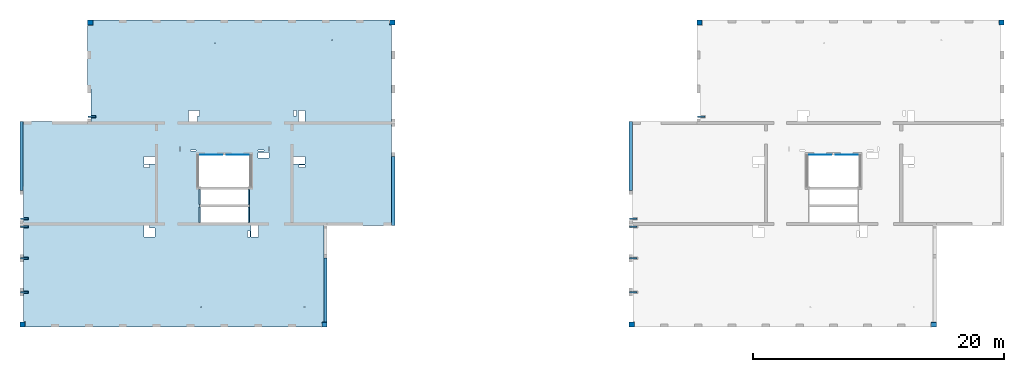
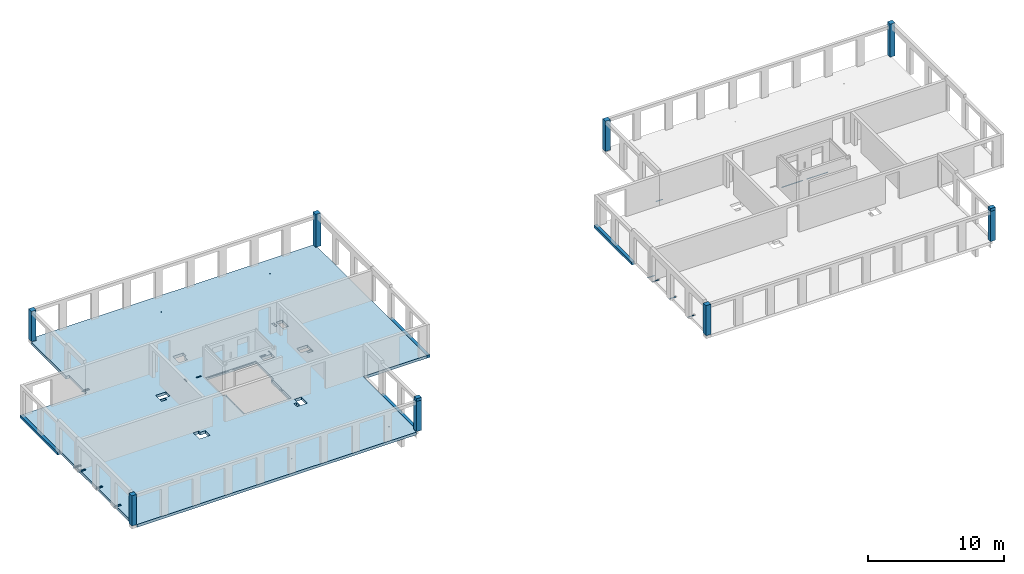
# One storey, part 1 of 9: 14 beams, 10 columns, 5 slabs, 33 openings.
"""IFC2X3 building model written with IfcOpenShell, lengths in millimetres."""

import ifcopenshell
import ifcopenshell.guid

model = None  # the IFC model being written
_history = None  # IfcOwnerHistory: only IFC2X3 demands one
_inside = {}  # id of a spatial element -> (the spatial element, [elements in it])
_under = {}  # id of a project, library or spatial element -> (it, [spatial elements below it])
_declared = {}  # id of a project -> (the project, [libraries it declares])
_typed = {}  # id of a type object -> (the type object, [elements of that type])
_made_of = {}  # id of a material, layer set ... -> (it, [elements and type objects made of it])


def new_model(schema):
    """Start an empty IFC model of exactly this schema.

    Asked for "IFC4X3", IfcOpenShell would pick the latest addendum, in which some entities
    have other attributes; the version numbers below select the first issue.
    IFC2X3 requires an IfcOwnerHistory on every rooted entity: one is made here for all.
    """
    global model, _history
    if schema == "IFC4X3":
        model = ifcopenshell.file(schema_version=(4, 3, 0, 0))
    else:
        model = ifcopenshell.file(schema=schema)
    _inside.clear()
    _under.clear()
    _declared.clear()
    _typed.clear()
    _made_of.clear()
    _history = None
    if model.schema == "IFC2X3":
        org = make("IfcOrganization", Name="unknown")
        user = make(
            "IfcPersonAndOrganization",
            ThePerson=make("IfcPerson", FamilyName="unknown"),
            TheOrganization=org,
        )
        app = make(
            "IfcApplication",
            ApplicationDeveloper=org,
            Version="unknown",
            ApplicationFullName="unknown",
            ApplicationIdentifier="unknown",
        )
        _history = make(
            "IfcOwnerHistory",
            OwningUser=user,
            OwningApplication=app,
            ChangeAction="ADDED",
            CreationDate=0,
        )
    return model


def make(cls, **values):
    """One entity of the class cls with the attributes given. An attribute that is None is left unset."""
    return model.create_entity(
        cls, **{name: value for name, value in values.items() if value is not None}
    )


def entity(cls, *values):
    """Any entity or typed value of the class cls, its attributes in the order of the schema. None: left unset."""
    e = model.create_entity(cls)
    for i, value in enumerate(values):
        if value is not None:
            e[i] = value
    return e


def rooted(cls, **values):
    """An entity with a GlobalId (a new one), such as an element, a storey or a relation."""
    return make(cls, GlobalId=ifcopenshell.guid.new(), OwnerHistory=_history, **values)


def si_unit(unit_type, name, prefix=None):
    """IfcSIUnit, for example si_unit("LENGTHUNIT", "METRE", prefix="MILLI")."""
    return make("IfcSIUnit", UnitType=unit_type, Prefix=prefix, Name=name)


def converted_unit(unit_type, name, factor, base, dimensions=None, offset=None):
    """IfcConversionBasedUnit, such as the inch: factor (a typed value) times the base unit."""
    return make(
        "IfcConversionBasedUnit"
        if offset is None
        else "IfcConversionBasedUnitWithOffset",
        ConversionOffset=offset,
        Dimensions=None
        if dimensions is None
        else entity("IfcDimensionalExponents", *dimensions),
        UnitType=unit_type,
        Name=name,
        ConversionFactor=make(
            "IfcMeasureWithUnit", ValueComponent=factor, UnitComponent=base
        ),
    )


def derived_unit(unit_type, elements):
    """IfcDerivedUnit: a product of units, each with its exponent."""
    return make(
        "IfcDerivedUnit",
        Elements=[
            make("IfcDerivedUnitElement", Unit=unit, Exponent=power)
            for unit, power in elements
        ],
        UnitType=unit_type,
    )


def assignment(units):
    """IfcUnitAssignment: the units of a project."""
    return None if units is None else make("IfcUnitAssignment", Units=units)


def point(xyz):
    """IfcCartesianPoint."""
    return None if xyz is None else make("IfcCartesianPoint", Coordinates=xyz)


def direction(xyz):
    """IfcDirection."""
    return None if xyz is None else make("IfcDirection", DirectionRatios=xyz)


def frame(location, z_axis=None, x_axis=None):
    """IfcAxis2Placement3D, a coordinate frame: its origin and axes. An axis left out is left unset."""
    return make(
        "IfcAxis2Placement3D",
        Location=point(location),
        Axis=direction(z_axis),
        RefDirection=direction(x_axis),
    )


def frame_2d(location, x_axis=None):
    """IfcAxis2Placement2D, a coordinate frame in the plane: its origin and x axis."""
    return make(
        "IfcAxis2Placement2D", Location=point(location), RefDirection=direction(x_axis)
    )


def origin():
    """The frame at (0, 0, 0) with its axes left unset."""
    return frame((0.0, 0.0, 0.0))


def origin_2d_with_axis():
    """The frame at (0, 0) in the plane with the x axis (1, 0) written out."""
    return frame_2d((0.0, 0.0), x_axis=(1.0, 0.0))


def place(relative_to, where):
    """IfcLocalPlacement: puts the frame where relative to a parent placement (None: the world)."""
    return make(
        "IfcLocalPlacement", PlacementRelTo=relative_to, RelativePlacement=where
    )


def context(
    kind, dimensions, precision=None, world=None, true_north=None, identifier=None
):
    """IfcGeometricRepresentationContext, for example the 3D "Model" context."""
    return make(
        "IfcGeometricRepresentationContext",
        ContextIdentifier=identifier,
        ContextType=kind,
        CoordinateSpaceDimension=dimensions,
        Precision=precision,
        WorldCoordinateSystem=world,
        TrueNorth=true_north,
    )


def subcontext(parent, identifier, kind, view, scale=None):
    """IfcGeometricRepresentationSubContext, for example "Body" below "Model"."""
    return make(
        "IfcGeometricRepresentationSubContext",
        ContextIdentifier=identifier,
        ContextType=kind,
        ParentContext=parent,
        TargetScale=scale,
        TargetView=view,
    )


def project(units=None, contexts=None):
    """IfcProject with its units and contexts."""
    return rooted(
        "IfcProject",
        Name="project",
        RepresentationContexts=contexts,
        UnitsInContext=assignment(units),
    )


def spatial(cls, under=None, at=None, **own):
    """A site, building, storey or space (cls), placed at a placement, below another one or the project."""
    s = rooted(cls, ObjectPlacement=at, **own)
    if under is not None:
        _under.setdefault(under.id(), (under, []))[1].append(s)
    return s


def polyline(points):
    """IfcPolyline through the points."""
    return make("IfcPolyline", Points=[point(p) for p in points])


def profile(cls, at=None, kind="AREA", **sizes):
    """A parametric profile (cls). Its sizes go by their IFC names, for example OverallWidth=200.0."""
    return make(cls, ProfileType=kind, Position=at, **sizes)


def rectangle(**sizes):
    """IfcRectangleProfileDef."""
    return profile("IfcRectangleProfileDef", **sizes)


def circle(**sizes):
    """IfcCircleProfileDef."""
    return profile("IfcCircleProfileDef", **sizes)


def outline(outer, holes=None, kind="AREA"):
    """IfcArbitraryClosedProfileDef: a profile drawn as a closed curve; with holes, ...WithVoids."""
    if holes is None:
        return make("IfcArbitraryClosedProfileDef", ProfileType=kind, OuterCurve=outer)
    return make(
        "IfcArbitraryProfileDefWithVoids",
        ProfileType=kind,
        OuterCurve=outer,
        InnerCurves=holes,
    )


def extrude(swept, where, along, depth):
    """IfcExtrudedAreaSolid: the profile swept, set in the frame where, extruded along a direction by depth."""
    return make(
        "IfcExtrudedAreaSolid",
        SweptArea=swept,
        Position=where,
        ExtrudedDirection=direction(along),
        Depth=depth,
    )


def shape(context_of_items, identifier, shape_type, items):
    """IfcShapeRepresentation: the items that make up one representation, for example the "Body"."""
    return make(
        "IfcShapeRepresentation",
        ContextOfItems=context_of_items,
        RepresentationIdentifier=identifier,
        RepresentationType=shape_type,
        Items=items,
    )


def source(mapping_origin, context_of_items, identifier, shape_type, items):
    """IfcRepresentationMap: a shape defined once, which mapped items show again and again."""
    return make(
        "IfcRepresentationMap",
        MappingOrigin=mapping_origin,
        MappedRepresentation=shape(context_of_items, identifier, shape_type, items),
    )


def transform(
    local_origin,
    x_axis=None,
    y_axis=None,
    z_axis=None,
    scale=None,
    scale2=None,
    scale3=None,
    uniform=True,
):
    """IfcCartesianTransformationOperator3D, or its non-uniform kind. x_axis, y_axis, z_axis: its Axis1, 2, 3."""
    if uniform:
        return make(
            "IfcCartesianTransformationOperator3D",
            Axis1=direction(x_axis),
            Axis2=direction(y_axis),
            LocalOrigin=point(local_origin),
            Scale=scale,
            Axis3=direction(z_axis),
        )
    return make(
        "IfcCartesianTransformationOperator3DnonUniform",
        Axis1=direction(x_axis),
        Axis2=direction(y_axis),
        LocalOrigin=point(local_origin),
        Scale=scale,
        Axis3=direction(z_axis),
        Scale2=scale2,
        Scale3=scale3,
    )


def mapped(mapping_source, mapping_target):
    """IfcMappedItem: shows the shape of a source again, moved by a transform."""
    return make(
        "IfcMappedItem", MappingSource=mapping_source, MappingTarget=mapping_target
    )


def material(Name=None, Category=None):
    """IfcMaterial."""
    return make("IfcMaterial", Name=Name, Category=Category)


def layer(
    of_material, thickness, ventilated=None, Name=None, Category=None, Priority=None
):
    """IfcMaterialLayer: one layer of a wall or slab, of a material (None: an air gap)."""
    return make(
        "IfcMaterialLayer",
        Material=of_material,
        LayerThickness=thickness,
        IsVentilated=ventilated,
        Name=Name,
        Category=Category,
        Priority=Priority,
    )


def layer_set(layers, Name=None):
    """IfcMaterialLayerSet."""
    return make("IfcMaterialLayerSet", MaterialLayers=layers, LayerSetName=Name)


def layer_usage(for_layer_set, set_direction, sense, offset, extent=None):
    """IfcMaterialLayerSetUsage: how a layer set lies in its element."""
    return make(
        "IfcMaterialLayerSetUsage",
        ForLayerSet=for_layer_set,
        LayerSetDirection=set_direction,
        DirectionSense=sense,
        OffsetFromReferenceLine=offset,
        ReferenceExtent=extent,
    )


def made_of(thing, what):
    """Note that an element or type object is made of a material, layer set ...; save() writes the relation."""
    if what is not None:
        _made_of.setdefault(what.id(), (what, []))[1].append(thing)
    return thing


def type_object(cls, material=None, **own):
    """A type object (cls), such as IfcWallType, which elements share."""
    return made_of(rooted(cls, **own), material)


def type_shapes(of_type, sources):
    """Give a type object the sources (RepresentationMaps) that its elements show as mapped items."""
    of_type.RepresentationMaps = sources


def element(
    cls,
    number,
    at=None,
    inside=None,
    cuts=None,
    type_object=None,
    material=None,
    context=None,
    identifier="Body",
    shape_type=None,
    held_by="IfcProductDefinitionShape",
    body=None,
    shapes=None,
    **own,
):
    """One element of the class cls, such as IfcWall. Its Tag is "e" and its number.

    at: its placement. inside: the storey or other place that contains it. cuts: it is an
    opening in that element (IfcRelVoidsElement). A single representation is given by context,
    identifier, shape_type and body (its items); several are given by shapes. held_by: the class
    of the entity that holds the representations. save() writes the other relations.
    """
    e = rooted(cls, Tag="e%d" % number, ObjectPlacement=at, **own)
    if body is not None:
        shapes = [shape(context, identifier, shape_type, body)]
    if shapes is not None:
        e.Representation = make(held_by, Representations=shapes)
    if inside is not None:
        _inside.setdefault(inside.id(), (inside, []))[1].append(e)
    if cuts is not None:
        rooted(
            "IfcRelVoidsElement", RelatingBuildingElement=cuts, RelatedOpeningElement=e
        )
    if type_object is not None:
        _typed.setdefault(type_object.id(), (type_object, []))[1].append(e)
    return made_of(e, material)


def aggregate(whole, parts):
    """IfcRelAggregates: a whole, such as a stair, and the parts it consists of."""
    return rooted("IfcRelAggregates", RelatingObject=whole, RelatedObjects=parts)


def save(model, path):
    """Write the relations noted so far, then the file.

    IfcRelAggregates (storeys below a building ...), IfcRelContainedInSpatialStructure (elements
    in a storey), IfcRelDefinesByType, IfcRelAssociatesMaterial and IfcRelDeclares: one each for
    every whole, place, type object, material and project.
    """
    for whole, parts in _under.values():
        aggregate(whole, parts)
    for where, things in _inside.values():
        rooted(
            "IfcRelContainedInSpatialStructure",
            RelatedElements=things,
            RelatingStructure=where,
        )
    for kind, things in _typed.values():
        rooted("IfcRelDefinesByType", RelatedObjects=things, RelatingType=kind)
    for what, things in _made_of.values():
        rooted("IfcRelAssociatesMaterial", RelatedObjects=things, RelatingMaterial=what)
    for by, libraries in _declared.values():
        rooted("IfcRelDeclares", RelatingContext=by, RelatedDefinitions=libraries)
    model.write(path)


model = new_model("IFC2X3")

# Units and contexts
model_context = context("Model", 3, precision=0.01, world=origin(), true_north=direction((6.12303176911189e-17, 1.0)))
body_context = subcontext(model_context, "Body", "Model", "MODEL_VIEW")
ifc_project = project(units=[si_unit("LENGTHUNIT", "METRE", prefix="MILLI"), si_unit("AREAUNIT", "SQUARE_METRE"), si_unit("VOLUMEUNIT", "CUBIC_METRE"), converted_unit("PLANEANGLEUNIT", "DEGREE", entity("IfcRatioMeasure", 0.0174532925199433), si_unit("PLANEANGLEUNIT", "RADIAN"), dimensions=[0, 0, 0, 0, 0, 0, 0]), si_unit("MASSUNIT", "GRAM", prefix="KILO"), derived_unit("MASSDENSITYUNIT", [(si_unit("MASSUNIT", "GRAM", prefix="KILO"), 1), (si_unit("LENGTHUNIT", "METRE"), -3)]), si_unit("TIMEUNIT", "SECOND"), si_unit("FREQUENCYUNIT", "HERTZ"), si_unit("THERMODYNAMICTEMPERATUREUNIT", "DEGREE_CELSIUS"), derived_unit("THERMALTRANSMITTANCEUNIT", [(si_unit("MASSUNIT", "GRAM", prefix="KILO"), 1), (si_unit("THERMODYNAMICTEMPERATUREUNIT", "KELVIN"), -1), (si_unit("TIMEUNIT", "SECOND"), -3)]), derived_unit("VOLUMETRICFLOWRATEUNIT", [(si_unit("LENGTHUNIT", "METRE"), 3), (si_unit("TIMEUNIT", "SECOND"), -1)]), si_unit("ELECTRICCURRENTUNIT", "AMPERE"), si_unit("ELECTRICVOLTAGEUNIT", "VOLT"), si_unit("POWERUNIT", "WATT"), si_unit("FORCEUNIT", "NEWTON", prefix="KILO"), si_unit("ILLUMINANCEUNIT", "LUX"), si_unit("LUMINOUSFLUXUNIT", "LUMEN"), si_unit("LUMINOUSINTENSITYUNIT", "CANDELA"), derived_unit("USERDEFINED", [(si_unit("MASSUNIT", "GRAM", prefix="KILO"), -1), (si_unit("LENGTHUNIT", "METRE"), -2), (si_unit("TIMEUNIT", "SECOND"), 3), (si_unit("LUMINOUSFLUXUNIT", "LUMEN"), 1)]), derived_unit("LINEARVELOCITYUNIT", [(si_unit("LENGTHUNIT", "METRE"), 1), (si_unit("TIMEUNIT", "SECOND"), -1)]), si_unit("PRESSUREUNIT", "PASCAL"), derived_unit("USERDEFINED", [(si_unit("LENGTHUNIT", "METRE"), -2), (si_unit("MASSUNIT", "GRAM", prefix="KILO"), 1), (si_unit("TIMEUNIT", "SECOND"), -2)])], contexts=[model_context])

# Site, building, storey
site_placement = place(None, origin())
site = spatial("IfcSite", under=ifc_project, at=site_placement, Name="Default", CompositionType="ELEMENT")
building_placement = place(site_placement, origin())
building = spatial("IfcBuilding", under=site, at=building_placement, Name="niet gebruiken", CompositionType="ELEMENT")
storey_placement = place(building_placement, frame((0.0, 0.0, 33390.0)))
storey = spatial("IfcBuildingStorey", under=building, at=storey_placement, Name="11 elfde verdieping", CompositionType="ELEMENT", Elevation=33390.0)

# Columns
ifc_material_1 = material(Name="NLRS_f2_beton prefab")
column_type_1 = type_object("IfcColumnType", Name="410x410", PredefinedType="COLUMN", material=ifc_material_1)
shared_shape_1 = source(origin(), body_context, "Body", "SweptSolid", [
    extrude(rectangle(XDim=410.0, YDim=410.0, at=origin_2d_with_axis()), frame((0.0, 0.0, 33320.0), z_axis=(0.0, 0.0, 1.0), x_axis=(0.0, -1.0, 0.0)), (0.0, 0.0, 1.0), 2699.99999999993),
])
type_shapes(column_type_1, [shared_shape_1])
for number, where, name in (
    (1, (99795.0, 28961.0, -33390.0), "NLRS_28. kolom vierkant_gen:410x410"),
    (2, (81105.0, 53051.0, -33390.0), "NLRS_28. kolom vierkant_gen:410x410"),
    (3, (51195.0, 28961.0, -33390.0), "NLRS_28. kolom vierkant_gen:410x410"),
    (4, (32505.0, 53051.0, -33390.0), "NLRS_28. kolom vierkant_gen:410x410"),
):
    element("IfcColumn", number, at=place(storey_placement, frame(where)), inside=storey, type_object=column_type_1, material=ifc_material_1, Name=name, ObjectType="410x410", context=body_context, shape_type="MappedRepresentation", body=[
        mapped(shared_shape_1, transform((0.0, 0.0, 0.0), scale=1.0)),
    ])
column_type_2 = type_object("IfcColumnType", Name="410x410", PredefinedType="COLUMN", material=ifc_material_1)
shared_shape_2 = source(origin(), body_context, "Body", "SweptSolid", [
    extrude(rectangle(XDim=410.0, YDim=410.0, at=origin_2d_with_axis()), frame((0.0, 0.0, 33320.0), z_axis=(0.0, 0.0, 1.0), x_axis=(0.0, -1.0, 0.0)), (0.0, 0.0, 1.0), 2700.0),
])
type_shapes(column_type_2, [shared_shape_2])
for number, where, z_axis, x_axis, name in (
    (5, (75705.0, 28961.0, -33390.0), (0.0, 0.0, 1.0), (0.0, 1.0, 0.0), "NLRS_28. kolom vierkant_gen1:410x410"),
    (6, (27105.0, 28961.0, -33390.0), (0.0, 0.0, 1.0), (0.0, 1.0, 0.0), "NLRS_28. kolom vierkant_gen1:410x410"),
):
    element("IfcColumn", number, at=place(storey_placement, frame(where, z_axis=z_axis, x_axis=x_axis)), inside=storey, type_object=column_type_2, material=ifc_material_1, Name=name, ObjectType="410x410", context=body_context, shape_type="MappedRepresentation", body=[
        mapped(shared_shape_2, transform((0.0, 0.0, 0.0), scale=1.0)),
    ])
column_type_3 = type_object("IfcColumnType", Name="410x410", PredefinedType="COLUMN", material=ifc_material_1)
shared_shape_3 = source(origin(), body_context, "Body", "SweptSolid", [
    extrude(rectangle(XDim=410.000000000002, YDim=409.999999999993, at=origin_2d_with_axis()), frame((105195.0, 53051.0, 33320.0), z_axis=(0.0, 0.0, 1.0), x_axis=(0.0, -1.0, 0.0)), (0.0, 0.0, 1.0), 2950.0),
])
type_shapes(column_type_3, [shared_shape_3])
column_1_placement = place(storey_placement, frame((0.0, 0.0, -33390.0)))
element("IfcColumn", 7, at=column_1_placement, inside=storey, type_object=column_type_3, material=ifc_material_1, Name="NLRS_28. kolom vierkant_gen:410x410", ObjectType="410x410", context=body_context, shape_type="MappedRepresentation", body=[
    mapped(shared_shape_3, transform((0.0, 0.0, 0.0), scale=1.0)),
])
column_type_4 = type_object("IfcColumnType", Name="410x410", PredefinedType="COLUMN", material=ifc_material_1)
shared_shape_4 = source(origin(), body_context, "Body", "SweptSolid", [
    extrude(rectangle(XDim=410.000000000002, YDim=410.000000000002, at=frame_2d((8.66862137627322e-12, 0.0), x_axis=(1.0, 0.0))), frame((56595.0, 53051.0, 33320.0), z_axis=(0.0, 0.0, 1.0), x_axis=(0.0, -1.0, 0.0)), (0.0, 0.0, 1.0), 2950.0),
])
type_shapes(column_type_4, [shared_shape_4])
column_2_placement = place(storey_placement, frame((0.0, 0.0, -33390.0)))
element("IfcColumn", 8, at=column_2_placement, inside=storey, type_object=column_type_4, material=ifc_material_1, Name="NLRS_28. kolom vierkant_gen:410x410", ObjectType="410x410", context=body_context, shape_type="MappedRepresentation", body=[
    mapped(shared_shape_4, transform((0.0, 0.0, 0.0), scale=1.0)),
])
column_type_5 = type_object("IfcColumnType", Name="410x360", PredefinedType="COLUMN", material=ifc_material_1)
shared_shape_5 = source(origin(), body_context, "Body", "SweptSolid", [
    extrude(rectangle(XDim=360.0, YDim=410.000000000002, at=origin_2d_with_axis()), frame((51195.0, 28936.0, 36020.0), z_axis=(0.0, 0.0, 1.0), x_axis=(0.0, -1.0, 0.0)), (0.0, 0.0, 1.0), 249.999999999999),
])
type_shapes(column_type_5, [shared_shape_5])
column_3_placement = place(storey_placement, frame((0.0, 0.0, -33390.0)))
element("IfcColumn", 9, at=column_3_placement, inside=storey, type_object=column_type_5, material=ifc_material_1, Name="NLRS_28. kolom vierkant_gen:410x360", ObjectType="410x360", context=body_context, shape_type="MappedRepresentation", body=[
    mapped(shared_shape_5, transform((0.0, 0.0, 0.0), scale=1.0)),
])
column_type_6 = type_object("IfcColumnType", Name="410x360", PredefinedType="COLUMN", material=ifc_material_1)
shared_shape_6 = source(origin(), body_context, "Body", "SweptSolid", [
    extrude(rectangle(XDim=360.0, YDim=409.999999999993, at=origin_2d_with_axis()), frame((99795.0, 28936.0, 36020.0), z_axis=(0.0, 0.0, 1.0), x_axis=(0.0, -1.0, 0.0)), (0.0, 0.0, 1.0), 249.999999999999),
])
type_shapes(column_type_6, [shared_shape_6])
column_4_placement = place(storey_placement, frame((0.0, 0.0, -33390.0)))
element("IfcColumn", 10, at=column_4_placement, inside=storey, type_object=column_type_6, material=ifc_material_1, Name="NLRS_28. kolom vierkant_gen:410x360", ObjectType="410x360", context=body_context, shape_type="MappedRepresentation", body=[
    mapped(shared_shape_6, transform((0.0, 0.0, 0.0), scale=1.0)),
])

# Beams
ifc_material_2 = material(Name="NLRS_h2_staal")
beam_type_1 = type_object("IfcBeamType", Name="ligger stripstaal RECT_120x10", PredefinedType="BEAM", material=ifc_material_2)
shared_shape_7 = source(origin(), body_context, "Body", "SweptSolid", [
    extrude(rectangle(XDim=599.999999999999, YDim=120.0, at=origin_2d_with_axis()), frame((0.0, 0.0, -5.0), z_axis=(0.0, 0.0, 1.0), x_axis=(-1.0, 0.0, 0.0)), (0.0, 0.0, 1.0), 9.99999999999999),
    extrude(rectangle(XDim=599.999999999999, YDim=120.0, at=origin_2d_with_axis()), frame((0.0, 0.0, -5.0), z_axis=(0.0, 0.0, 1.0), x_axis=(-1.0, 0.0, 0.0)), (0.0, 0.0, 1.0), 9.99999999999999),
])
type_shapes(beam_type_1, [shared_shape_7])
for number, where, name in (
    (11, (27235.0, 31556.0, -115.0), "NLRS_28.11_SF_WPB_stalen ligger stripstaal_gen:ligger stripstaal RECT_120x10"),
    (12, (27235.0, 34256.0, -115.0), "NLRS_28.11_SF_WPB_stalen ligger stripstaal_gen:ligger stripstaal RECT_120x10"),
    (13, (27235.0, 36766.0, -115.0), "NLRS_28.11_SF_WPB_stalen ligger stripstaal_gen:ligger stripstaal RECT_120x10"),
    (14, (75835.0, 31556.0, -115.0), "NLRS_28.11_SF_WPB_stalen ligger stripstaal_gen:ligger stripstaal RECT_120x10"),
    (15, (75835.0, 34256.0, -115.0), "NLRS_28.11_SF_WPB_stalen ligger stripstaal_gen:ligger stripstaal RECT_120x10"),
    (16, (75835.0, 36766.0, -115.0), "NLRS_28.11_SF_WPB_stalen ligger stripstaal_gen:ligger stripstaal RECT_120x10"),
):
    element("IfcBeam", number, at=place(storey_placement, frame(where)), inside=storey, type_object=beam_type_1, material=ifc_material_2, Name=name, ObjectType="ligger stripstaal RECT_120x10", context=body_context, shape_type="MappedRepresentation", body=[
        mapped(shared_shape_7, transform((0.0, 0.0, 0.0), scale=1.0)),
    ])
beam_type_2 = type_object("IfcBeamType", Name="NLRS_28.11_SF_WPB_Halfen 40-22_gen:ligger stripstaal RECT_100x10", PredefinedType="BEAM")
for number, where, name in (
    (17, (41264.9998491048, 42496.0, -160.0), "NLRS_28.11_SF_WPB_Halfen 40-22_gen:ligger stripstaal RECT_100x10"),
    (18, (43374.9998491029, 42496.0, -160.0), "NLRS_28.11_SF_WPB_Halfen 40-22_gen:ligger stripstaal RECT_100x10"),
):
    element("IfcBeam", number, at=place(storey_placement, frame(where)), inside=storey, type_object=beam_type_2, material=ifc_material_2, Name=name, ObjectType="NLRS_28.11_SF_WPB_Halfen 40-22_gen:ligger stripstaal RECT_100x10", context=body_context, shape_type="SweptSolid", body=[
        extrude(outline(polyline([(-20.0, -8.0), (-9.0, -8.0), (-9.0, 0.0), (-11.0, 0.0), (-11.0, -6.0), (-18.0, -6.0), (-18.0, 13.0), (18.0, 13.0), (18.0, -6.0), (11.0, -6.0), (11.0, 0.0), (9.0, 0.0), (9.0, -8.0), (20.0, -8.0), (20.0, 15.0), (-20.0, 15.0), (-20.0, -8.0)])), frame((0.0, 8.0, 20.0), z_axis=(1.0, 0.0, 0.0), x_axis=(0.0, 0.0, -1.0)), (0.0, 0.0, 1.0), 1760.00000000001),
    ])
beam_1_placement = place(storey_placement, frame((89865.0, 42496.0, -160.0)))
element("IfcBeam", 19, at=beam_1_placement, inside=storey, type_object=beam_type_2, material=ifc_material_2, Name="NLRS_28.11_SF_WPB_Halfen 40-22_gen:ligger stripstaal RECT_100x10", ObjectType="NLRS_28.11_SF_WPB_Halfen 40-22_gen:ligger stripstaal RECT_100x10", context=body_context, shape_type="SweptSolid", body=[
    extrude(outline(polyline([(-20.0, -8.0), (-9.0, -8.0), (-9.0, 0.0), (-11.0, 0.0), (-11.0, -6.0), (-18.0, -6.0), (-18.0, 13.0), (18.0, 13.0), (18.0, -6.0), (11.0, -6.0), (11.0, 0.0), (9.0, 0.0), (9.0, -8.0), (20.0, -8.0), (20.0, 15.0), (-20.0, 15.0), (-20.0, -8.0)])), frame((0.0, 8.0, 20.0), z_axis=(1.0, 0.0, 0.0), x_axis=(0.0, 0.0, -1.0)), (0.0, 0.0, 1.0), 1760.00000000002),
])
beam_2_placement = place(storey_placement, frame((91975.0, 42496.0, -160.0)))
element("IfcBeam", 20, at=beam_2_placement, inside=storey, type_object=beam_type_2, material=ifc_material_2, Name="NLRS_28.11_SF_WPB_Halfen 40-22_gen:ligger stripstaal RECT_100x10", ObjectType="NLRS_28.11_SF_WPB_Halfen 40-22_gen:ligger stripstaal RECT_100x10", context=body_context, shape_type="SweptSolid", body=[
    extrude(outline(polyline([(-20.0, -8.0), (-9.0, -8.0), (-9.0, 0.0), (-11.0, 0.0), (-11.0, -6.0), (-18.0, -6.0), (-18.0, 13.0), (18.0, 13.0), (18.0, -6.0), (11.0, -6.0), (11.0, 0.0), (9.0, 0.0), (9.0, -8.0), (20.0, -8.0), (20.0, 15.0), (-20.0, 15.0), (-20.0, -8.0)])), frame((0.0, 8.0, 20.0), z_axis=(1.0, 0.0, 0.0), x_axis=(0.0, 0.0, -1.0)), (0.0, 0.0, 1.0), 1760.0),
])
beam_type_3 = type_object("IfcBeamType", Name="ligger stripstaal RECT_120x10", PredefinedType="BEAM", material=ifc_material_2)
shared_shape_8 = source(origin(), body_context, "Body", "SweptSolid", [
    extrude(rectangle(XDim=120.0, YDim=600.000000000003, at=origin_2d_with_axis()), frame((0.0, 0.0, -5.0), z_axis=(0.0, 0.0, 1.0), x_axis=(0.0, 1.0, 0.0)), (0.0, 0.0, 1.0), 9.99999999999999),
    extrude(rectangle(XDim=120.0, YDim=600.000000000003, at=origin_2d_with_axis()), frame((0.0, 0.0, -5.0), z_axis=(0.0, 0.0, 1.0), x_axis=(0.0, 1.0, 0.0)), (0.0, 0.0, 1.0), 9.99999999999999),
])
type_shapes(beam_type_3, [shared_shape_8])
for number, where, name in (
    (21, (27235.0, 37386.0, -115.0), "NLRS_28.11_SF_WPB_stalen ligger stripstaal_gen:ligger stripstaal RECT_120x10"),
    (22, (32635.0, 45521.0, -115.0), "NLRS_28.11_SF_WPB_stalen ligger stripstaal_gen:ligger stripstaal RECT_120x10"),
    (23, (75835.0, 37386.0, -115.0), "NLRS_28.11_SF_WPB_stalen ligger stripstaal_gen:ligger stripstaal RECT_120x10"),
    (24, (81235.0, 45521.0, -115.0), "NLRS_28.11_SF_WPB_stalen ligger stripstaal_gen:ligger stripstaal RECT_120x10"),
):
    element("IfcBeam", number, at=place(storey_placement, frame(where)), inside=storey, type_object=beam_type_3, material=ifc_material_2, Name=name, ObjectType="ligger stripstaal RECT_120x10", context=body_context, shape_type="MappedRepresentation", body=[
        mapped(shared_shape_8, transform((0.0, 0.0, 0.0), scale=1.0)),
    ])

# Slab, openings
ifc_material_3 = material(Name="NLRS_f2_beton ihwg")
ifc_layer = layer(ifc_material_3, 250.0)
ifc_layer_set = layer_set([ifc_layer], Name="Floor:NLRS_23.21_FL_beton ihwg d=250_gen")
ifc_layer_usage_1 = layer_usage(ifc_layer_set, "AXIS3", "POSITIVE", 0.0)
slab_1_placement = place(storey_placement, frame((27150.0, 28756.0, -340.0)))
slab_1 = element("IfcSlab", 25, at=slab_1_placement, inside=storey, material=ifc_layer_usage_1, Name="Floor:NLRS_23.21_FL_beton ihwg d=250_gen", ObjectType="Floor:NLRS_23.21_FL_beton ihwg d=250_gen", PredefinedType="FLOOR", context=body_context, shape_type="SweptSolid", body=[
    extrude(outline(polyline([(9119.99996701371, 12250.0), (-14540.0, 12250.0), (-14540.0, 11840.0), (-14680.0, 11840.0), (-14680.0, 4060.0), (-14700.0, 4060.0), (-14700.0, -4150.0), (-9300.0, -4150.0), (-9300.0, -11890.0), (-9140.0, -11890.0), (-9140.0, -12250.0), (14520.0, -12250.0), (14520.0, -11820.0), (14660.0, -11820.0), (14660.0, -4060.0), (14680.0, -4060.0), (14680.0, -1040.0), (14950.0, -1040.0), (14950.0, 4150.0), (9280.0, 4150.0), (9280.0, 6750.0), (9550.0, 6750.0), (9550.0, 11820.0), (9119.99996701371, 11820.0), (9119.99996701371, 12250.0)])), frame((14700.0, 12250.0, 250.0), z_axis=(0.0, 0.0, -1.0), x_axis=(-1.0, 0.0, 0.0)), (0.0, 0.0, 1.0), 249.999999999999),
])
opening_1_placement = place(storey_placement, frame((27150.0, 28756.0, -340.0)))
element("IfcOpeningElement", 26, at=opening_1_placement, cuts=slab_1, ObjectType="Opening", context=body_context, shape_type="SweptSolid", body=[
    extrude(circle(Radius=37.5, at=frame_2d((-7750.0, -10650.0), x_axis=(1.0, 0.0))), frame((14700.0, 12250.0, 250.0), z_axis=(0.0, 0.0, -1.0), x_axis=(-1.0, 0.0, 0.0)), (0.0, 0.0, 1.0), 249.999999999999),
])
opening_2_placement = place(storey_placement, frame((27150.0, 28756.0, -340.0)))
element("IfcOpeningElement", 27, at=opening_2_placement, cuts=slab_1, ObjectType="Opening", context=body_context, shape_type="SweptSolid", body=[
    extrude(circle(Radius=37.5, at=frame_2d((-9950.0, 10650.0), x_axis=(1.0, 0.0))), frame((14700.0, 12250.0, 250.0), z_axis=(0.0, 0.0, -1.0), x_axis=(-1.0, 0.0, 0.0)), (0.0, 0.0, 1.0), 249.999999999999),
])
opening_3_placement = place(storey_placement, frame((27150.0, 28756.0, -340.0)))
element("IfcOpeningElement", 28, at=opening_3_placement, cuts=slab_1, ObjectType="Opening", context=body_context, shape_type="SweptSolid", body=[
    extrude(circle(Radius=37.5, at=frame_2d((-600.0, 10400.0), x_axis=(1.0, 0.0))), frame((14700.0, 12250.0, 250.0), z_axis=(0.0, 0.0, -1.0), x_axis=(-1.0, 0.0, 0.0)), (0.0, 0.0, 1.0), 249.999999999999),
])
opening_4_placement = place(storey_placement, frame((27150.0, 28756.0, -340.0)))
element("IfcOpeningElement", 29, at=opening_4_placement, cuts=slab_1, ObjectType="Opening", context=body_context, shape_type="SweptSolid", body=[
    extrude(circle(Radius=37.5, at=frame_2d((500.0, -10650.0), x_axis=(1.0, 0.0))), frame((14700.0, 12250.0, 250.0), z_axis=(0.0, 0.0, -1.0), x_axis=(-1.0, 0.0, 0.0)), (0.0, 0.0, 1.0), 249.999999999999),
])
opening_5_placement = place(slab_1_placement, origin())
element("IfcOpeningElement", 30, at=opening_5_placement, cuts=slab_1, ObjectType="Opening", context=body_context, shape_type="SweptSolid", body=[
    extrude(rectangle(XDim=110.000000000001, YDim=1220.0, at=origin_2d_with_axis()), frame((14094.9999671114, 10380.0, 210.0)), (0.0, 0.0, 1.0), 39.9999999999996),
])
opening_6_placement = place(slab_1_placement, origin())
element("IfcOpeningElement", 31, at=opening_6_placement, cuts=slab_1, ObjectType="Opening", context=body_context, shape_type="SweptSolid", body=[
    extrude(rectangle(XDim=110.000000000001, YDim=1220.0, at=origin_2d_with_axis()), frame((18005.0, 10380.0, 210.0)), (0.0, 0.0, 1.0), 39.9999999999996),
])
opening_7_placement = place(slab_1_placement, origin())
element("IfcOpeningElement", 32, at=opening_7_placement, cuts=slab_1, ObjectType="Opening", context=body_context, shape_type="SweptSolid", body=[
    extrude(rectangle(XDim=110.000000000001, YDim=1220.0, at=origin_2d_with_axis()), frame((18005.0, 8960.0, 210.0)), (0.0, 0.0, 1.0), 39.9999999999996),
])
opening_8_placement = place(slab_1_placement, origin())
element("IfcOpeningElement", 33, at=opening_8_placement, cuts=slab_1, ObjectType="Opening", context=body_context, shape_type="SweptSolid", body=[
    extrude(rectangle(XDim=110.000000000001, YDim=1220.0, at=origin_2d_with_axis()), frame((14094.9999671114, 8960.0, 210.0)), (0.0, 0.0, 1.0), 39.9999999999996),
])
opening_9_placement = place(slab_1_placement, origin())
element("IfcOpeningElement", 34, at=opening_9_placement, cuts=slab_1, ObjectType="Opening", context=body_context, shape_type="SweptSolid", body=[
    extrude(rectangle(XDim=400.000000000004, YDim=200.000000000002, at=origin_2d_with_axis()), frame((220.0, 8630.0, 220.0)), (0.0, 0.0, 1.0), 30.0000000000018),
])
opening_10_placement = place(slab_1_placement, origin())
element("IfcOpeningElement", 35, at=opening_10_placement, cuts=slab_1, ObjectType="Opening", context=body_context, shape_type="SweptSolid", body=[
    extrude(rectangle(XDim=200.000000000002, YDim=400.000000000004, at=origin_2d_with_axis()), frame((240.0, 8000.0, 220.0), z_axis=(0.0, 0.0, 1.0), x_axis=(0.0, -1.0, 0.0)), (0.0, 0.0, 1.0), 30.0000000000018),
])
opening_11_placement = place(slab_1_placement, origin())
element("IfcOpeningElement", 36, at=opening_11_placement, cuts=slab_1, ObjectType="Opening", context=body_context, shape_type="SweptSolid", body=[
    extrude(rectangle(XDim=200.000000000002, YDim=400.000000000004, at=origin_2d_with_axis()), frame((240.0, 5500.0, 220.0), z_axis=(0.0, 0.0, 1.0), x_axis=(0.0, -1.0, 0.0)), (0.0, 0.0, 1.0), 30.0000000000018),
])
opening_12_placement = place(slab_1_placement, origin())
element("IfcOpeningElement", 37, at=opening_12_placement, cuts=slab_1, ObjectType="Opening", context=body_context, shape_type="SweptSolid", body=[
    extrude(rectangle(XDim=200.000000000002, YDim=400.000000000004, at=origin_2d_with_axis()), frame((240.0, 2800.0, 220.0), z_axis=(0.0, 0.0, 1.0), x_axis=(0.0, -1.0, 0.0)), (0.0, 0.0, 1.0), 30.0000000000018),
])
opening_13_placement = place(slab_1_placement, origin())
element("IfcOpeningElement", 38, at=opening_13_placement, cuts=slab_1, ObjectType="Opening", context=body_context, shape_type="SweptSolid", body=[
    extrude(rectangle(XDim=400.000000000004, YDim=199.999999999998, at=origin_2d_with_axis()), frame((5620.0, 16765.0, 220.0)), (0.0, 0.0, 1.0), 30.0000000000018),
])
opening_14_placement = place(slab_1_placement, origin())
element("IfcOpeningElement", 39, at=opening_14_placement, cuts=slab_1, ObjectType="Opening", context=body_context, shape_type="SweptSolid", body=[
    extrude(rectangle(XDim=900.000000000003, YDim=729.999999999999, at=origin_2d_with_axis()), frame((13550.0, 16850.0, 0.0), z_axis=(0.0, 0.0, 1.0), x_axis=(0.0, 1.0, 0.0)), (0.0, 0.0, 1.0), 249.999999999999),
])
opening_15_placement = place(slab_1_placement, origin())
element("IfcOpeningElement", 40, at=opening_15_placement, cuts=slab_1, ObjectType="Opening", context=body_context, shape_type="SweptSolid", body=[
    extrude(rectangle(XDim=170.000000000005, YDim=450.000000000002, at=origin_2d_with_axis()), frame((14000.0, 17075.0, 0.0), z_axis=(0.0, 0.0, 1.0), x_axis=(-1.0, 0.0, 0.0)), (0.0, 0.0, 1.0), 249.999999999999),
])
opening_16_placement = place(slab_1_placement, origin())
element("IfcOpeningElement", 41, at=opening_16_placement, cuts=slab_1, ObjectType="Opening", context=body_context, shape_type="SweptSolid", body=[
    extrude(rectangle(XDim=900.000000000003, YDim=700.000000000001, at=origin_2d_with_axis()), frame((10075.0, 7550.0, 0.0), z_axis=(0.0, 0.0, 1.0), x_axis=(-1.0, 0.0, 0.0)), (0.0, 0.0, 1.0), 249.999999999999),
])
opening_17_placement = place(slab_1_placement, origin())
element("IfcOpeningElement", 42, at=opening_17_placement, cuts=slab_1, ObjectType="Opening", context=body_context, shape_type="SweptSolid", body=[
    extrude(rectangle(XDim=200.000000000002, YDim=450.000000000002, at=origin_2d_with_axis()), frame((9850.0, 8000.0, 0.0), z_axis=(0.0, 0.0, 1.0), x_axis=(0.0, -1.0, 0.0)), (0.0, 0.0, 1.0), 249.999999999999),
])
opening_18_placement = place(slab_1_placement, origin())
element("IfcOpeningElement", 43, at=opening_18_placement, cuts=slab_1, ObjectType="Opening", context=body_context, shape_type="SweptSolid", body=[
    extrude(rectangle(XDim=450.000000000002, YDim=900.000000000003, at=origin_2d_with_axis()), frame((19180.0, 13720.0, 0.0), z_axis=(0.0, 0.0, 1.0), x_axis=(0.0, -1.0, 0.0)), (0.0, 0.0, 1.0), 249.999999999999),
])
opening_19_placement = place(slab_1_placement, origin())
element("IfcOpeningElement", 44, at=opening_19_placement, cuts=slab_1, ObjectType="Opening", context=body_context, shape_type="SweptSolid", body=[
    extrude(rectangle(XDim=900.000000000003, YDim=600.000000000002, at=origin_2d_with_axis()), frame((10075.0, 13330.0, 0.0), z_axis=(0.0, 0.0, 1.0), x_axis=(-1.0, 0.0, 0.0)), (0.0, 0.0, 1.0), 249.999999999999),
])
opening_20_placement = place(slab_1_placement, origin())
element("IfcOpeningElement", 45, at=opening_20_placement, cuts=slab_1, ObjectType="Opening", context=body_context, shape_type="SweptSolid", body=[
    extrude(rectangle(XDim=900.000000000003, YDim=499.999999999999, at=origin_2d_with_axis()), frame((22225.0, 16850.0, 0.0), z_axis=(0.0, 0.0, 1.0), x_axis=(0.0, 1.0, 0.0)), (0.0, 0.0, 1.0), 249.999999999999),
])
opening_21_placement = place(slab_1_placement, origin())
element("IfcOpeningElement", 46, at=opening_21_placement, cuts=slab_1, ObjectType="Opening", context=body_context, shape_type="SweptSolid", body=[
    extrude(rectangle(XDim=899.999999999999, YDim=600.000000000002, at=origin_2d_with_axis()), frame((18479.9818996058, 7650.0, 0.0), z_axis=(0.0, 0.0, 1.0), x_axis=(0.0, 1.0, 0.0)), (0.0, 0.0, 1.0), 249.999999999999),
])
opening_22_placement = place(slab_1_placement, origin())
element("IfcOpeningElement", 47, at=opening_22_placement, cuts=slab_1, ObjectType="Opening", context=body_context, shape_type="SweptSolid", body=[
    extrude(rectangle(XDim=900.000000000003, YDim=600.000000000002, at=origin_2d_with_axis()), frame((22025.0, 13330.0, 0.0), z_axis=(0.0, 0.0, 1.0), x_axis=(-1.0, 0.0, 0.0)), (0.0, 0.0, 1.0), 249.999999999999),
])
opening_23_placement = place(slab_1_placement, origin())
element("IfcOpeningElement", 48, at=opening_23_placement, cuts=slab_1, ObjectType="Opening", context=body_context, shape_type="SweptSolid", body=[
    extrude(rectangle(XDim=1760.00000000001, YDim=23.0000000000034, at=origin_2d_with_axis()), frame((14994.9998491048, 13751.5, 180.0)), (0.0, 0.0, 1.0), 39.9999999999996),
])
opening_24_placement = place(slab_1_placement, origin())
element("IfcOpeningElement", 49, at=opening_24_placement, cuts=slab_1, ObjectType="Opening", context=body_context, shape_type="SweptSolid", body=[
    extrude(rectangle(XDim=1760.00000000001, YDim=23.0000000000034, at=origin_2d_with_axis()), frame((17104.9998491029, 13751.5, 180.0)), (0.0, 0.0, 1.0), 39.9999999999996),
])
opening_25_placement = place(slab_1_placement, origin())
element("IfcOpeningElement", 50, at=opening_25_placement, cuts=slab_1, ObjectType="Opening", context=body_context, shape_type="SweptSolid", body=[
    extrude(rectangle(XDim=100.000000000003, YDim=340.000000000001, at=origin_2d_with_axis()), frame((19615.0, 14210.0, 0.0), z_axis=(0.0, 0.0, 1.0), x_axis=(-1.0, 0.0, 0.0)), (0.0, 0.0, 1.0), 249.999999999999),
])
opening_26_placement = place(slab_1_placement, origin())
element("IfcOpeningElement", 51, at=opening_26_placement, cuts=slab_1, ObjectType="Opening", context=body_context, shape_type="SweptSolid", body=[
    extrude(rectangle(XDim=100.000000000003, YDim=490.000000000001, at=origin_2d_with_axis()), frame((18975.0, 14090.0, 0.0), z_axis=(0.0, 0.0, 1.0), x_axis=(0.0, -1.0, 0.0)), (0.0, 0.0, 1.0), 249.999999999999),
])
opening_27_placement = place(slab_1_placement, origin())
element("IfcOpeningElement", 52, at=opening_27_placement, cuts=slab_1, ObjectType="Opening", context=body_context, shape_type="SweptSolid", body=[
    extrude(rectangle(XDim=100.000000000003, YDim=440.000000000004, at=origin_2d_with_axis()), frame((13555.0, 14090.0, 0.0), z_axis=(0.0, 0.0, 1.0), x_axis=(0.0, -1.0, 0.0)), (0.0, 0.0, 1.0), 249.999999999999),
])
opening_28_placement = place(slab_1_placement, origin())
element("IfcOpeningElement", 53, at=opening_28_placement, cuts=slab_1, ObjectType="Opening", context=body_context, shape_type="SweptSolid", body=[
    extrude(rectangle(XDim=100.000000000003, YDim=340.000000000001, at=origin_2d_with_axis()), frame((12505.0, 14210.0, 0.0), z_axis=(0.0, 0.0, 1.0), x_axis=(-1.0, 0.0, 0.0)), (0.0, 0.0, 1.0), 249.999999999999),
])
opening_29_placement = place(slab_1_placement, origin())
element("IfcOpeningElement", 54, at=opening_29_placement, cuts=slab_1, ObjectType="Opening", context=body_context, shape_type="SweptSolid", body=[
    extrude(rectangle(XDim=230.0, YDim=450.000000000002, at=origin_2d_with_axis()), frame((9850.00008659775, 12845.0002270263, 0.0), z_axis=(0.0, 0.0, 1.0), x_axis=(0.0, -1.0, 0.0)), (0.0, 0.0, 1.0), 249.999999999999),
])
opening_30_placement = place(slab_1_placement, origin())
element("IfcOpeningElement", 55, at=opening_30_placement, cuts=slab_1, ObjectType="Opening", context=body_context, shape_type="SweptSolid", body=[
    extrude(rectangle(XDim=220.000000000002, YDim=450.000000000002, at=origin_2d_with_axis()), frame((21685.0, 17075.0, 0.0), z_axis=(0.0, 0.0, 1.0), x_axis=(-1.0, 0.0, 0.0)), (0.0, 0.0, 1.0), 249.999999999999),
])
opening_31_placement = place(slab_1_placement, origin())
element("IfcOpeningElement", 56, at=opening_31_placement, cuts=slab_1, ObjectType="Opening", context=body_context, shape_type="SweptSolid", body=[
    extrude(rectangle(XDim=220.000000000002, YDim=450.000000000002, at=origin_2d_with_axis()), frame((22250.0, 12840.0, 0.0), z_axis=(0.0, 0.0, 1.0), x_axis=(0.0, -1.0, 0.0)), (0.0, 0.0, 1.0), 249.999999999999),
])
opening_32_placement = place(slab_1_placement, origin())
element("IfcOpeningElement", 57, at=opening_32_placement, cuts=slab_1, ObjectType="Opening", context=body_context, shape_type="SweptSolid", body=[
    extrude(rectangle(XDim=220.000000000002, YDim=450.000000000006, at=origin_2d_with_axis()), frame((17990.0, 7425.0, 0.0)), (0.0, 0.0, 1.0), 249.999999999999),
])
opening_33_placement = place(slab_1_placement, frame((16050.0, 10378.75, 250.0)))
element("IfcOpeningElement", 58, at=opening_33_placement, cuts=slab_1, Name="Floor:NLRS_23.21_FL_beton ihwg d=250_gen:2", ObjectType="Opening", context=body_context, shape_type="SweptSolid", body=[
    extrude(outline(polyline([(-1899.99998355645, -2028.75000000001), (1900.00001644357, -2028.75000000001), (1900.00001644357, -808.750000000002), (1999.99998355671, -808.750000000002), (1999.99998355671, -608.75), (1900.00001644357, -608.75), (1900.00001644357, 751.250000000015), (2134.99998355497, 751.250000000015), (2134.99998355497, 3361.24999999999), (-2135.00001644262, 3361.24999999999), (-2135.00001644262, 751.250000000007), (-1899.99998355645, 751.250000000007), (-1899.99998355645, -608.750000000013), (-2000.00001644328, -608.750000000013), (-2000.00001644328, -808.750000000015), (-1899.99998355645, -808.750000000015), (-1899.99998355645, -2028.75000000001)])), frame((0.0, 0.0, 0.0), z_axis=(0.0, 0.0, -1.0), x_axis=(-1.0, 0.0, 0.0)), (0.0, 0.0, 1.0), 249.999999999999),
])

# Slabs
ifc_layer_usage_2 = layer_usage(ifc_layer_set, "AXIS3", "POSITIVE", 0.0)
slab_2_placement = place(storey_placement, origin())
element("IfcSlab", 59, at=slab_2_placement, inside=storey, material=ifc_layer_usage_2, Name="Floor:NLRS_23.21_FL_beton ihwg d=250_gen", ObjectType="Floor:NLRS_23.21_FL_beton ihwg d=250_gen", PredefinedType="FLOOR", context=body_context, shape_type="SweptSolid", body=[
    extrude(rectangle(XDim=5499.99999999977, YDim=250.000000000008, at=frame_2d((0.0, 2.16715534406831e-12), x_axis=(1.0, 0.0))), frame((27025.0, 42406.0, -90.0), z_axis=(0.0, 0.0, -1.0), x_axis=(0.0, 1.0, 0.0)), (0.0, 0.0, 1.0), 249.999999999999),
])
ifc_layer_usage_3 = layer_usage(ifc_layer_set, "AXIS3", "POSITIVE", 0.0)
slab_3_placement = place(storey_placement, origin())
element("IfcSlab", 60, at=slab_3_placement, inside=storey, material=ifc_layer_usage_3, Name="Floor:NLRS_23.21_FL_beton ihwg d=250_gen", ObjectType="Floor:NLRS_23.21_FL_beton ihwg d=250_gen", PredefinedType="FLOOR", context=body_context, shape_type="SweptSolid", body=[
    extrude(rectangle(XDim=5499.99999999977, YDim=250.000000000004, at=frame_2d((0.0, 4.33431068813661e-12), x_axis=(1.0, 0.0))), frame((75625.0, 42406.0, -90.0), z_axis=(0.0, 0.0, -1.0), x_axis=(0.0, 1.0, 0.0)), (0.0, 0.0, 1.0), 249.999999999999),
])
ifc_layer_usage_4 = layer_usage(ifc_layer_set, "AXIS3", "POSITIVE", 0.0)
slab_4_placement = place(storey_placement, origin())
element("IfcSlab", 61, at=slab_4_placement, inside=storey, material=ifc_layer_usage_4, Name="Floor:NLRS_23.21_FL_beton ihwg d=250_gen", ObjectType="Floor:NLRS_23.21_FL_beton ihwg d=250_gen", PredefinedType="FLOOR", context=body_context, shape_type="SweptSolid", body=[
    extrude(rectangle(XDim=5140.00000000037, YDim=250.000065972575, at=frame_2d((-2.27373675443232e-12, 0.0), x_axis=(1.0, 0.0))), frame((51275.0, 31686.0, -90.0), z_axis=(0.0, 0.0, -1.0), x_axis=(0.0, 1.0, 0.0)), (0.0, 0.0, 1.0), 249.999999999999),
])
ifc_layer_usage_5 = layer_usage(ifc_layer_set, "AXIS3", "POSITIVE", 0.0)
slab_5_placement = place(storey_placement, origin())
element("IfcSlab", 62, at=slab_5_placement, inside=storey, material=ifc_layer_usage_5, Name="Floor:NLRS_23.21_FL_beton ihwg d=250_gen", ObjectType="Floor:NLRS_23.21_FL_beton ihwg d=250_gen", PredefinedType="FLOOR", context=body_context, shape_type="SweptSolid", body=[
    extrude(rectangle(XDim=5500.00000000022, YDim=250.000000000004, at=frame_2d((0.0, 4.33431068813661e-12), x_axis=(1.0, 0.0))), frame((56675.0, 39606.0, -90.0), z_axis=(0.0, 0.0, -1.0), x_axis=(0.0, 1.0, 0.0)), (0.0, 0.0, 1.0), 249.999999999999),
])

save(model, "model.ifc")
